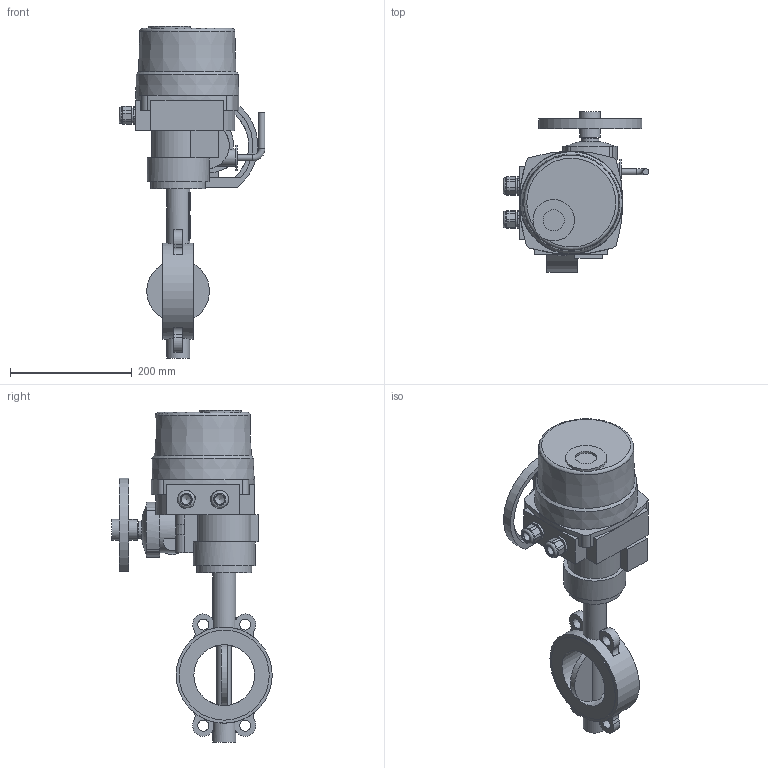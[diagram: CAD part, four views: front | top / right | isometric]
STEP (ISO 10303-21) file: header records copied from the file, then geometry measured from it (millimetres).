
FILE_DESCRIPTION(('STEP AP203'), '1');
FILE_NAME('青蜮铕 015WDN100+菹 QT10-1', '', ('UNSPECIFIED'), ('UNSPECIFIED'), 'ASCON STEP Converter 1.6', 'ASCON Math Kernel', '');
FILE_SCHEMA(('CONFIG_CONTROL_DESIGN'));
Length unit declared in the file: millimetre
Bounding box: 239.5 x 264 x 546 mm (x, y, z)
Volume: 5075447.3 mm3; surface area: 392345.8 mm2
Topology: 2 solids, 3 shells, 837 faces, 2365 edges, 1520 vertices
Faces by surface type: cylinder 532, plane 282, bspline 13, torus 5, cone 5
Full cylindrical faces by diameter (mm): 6.8 x4, 10 x6, 15.9 x1, 16 x2, 17 x2, 18 x4, 20 x1, 22.835 x2, 25 x2, 28 x3, 28.026 x1, 34 x2, 35 x1, 38 x2, 42 x1, 55 x1, 68 x1, 90 x1, 100 x1, 102 x1, 148 x2, 158 x1
Entity records: 36678 total; most frequent: CARTESIAN_POINT 7538, DIRECTION 5039, ORIENTED_EDGE 4561, EDGE_CURVE 2312, AXIS2_PLACEMENT_3D 1973, VERTEX_POINT 1518, CIRCLE 1148, LINE 1093
